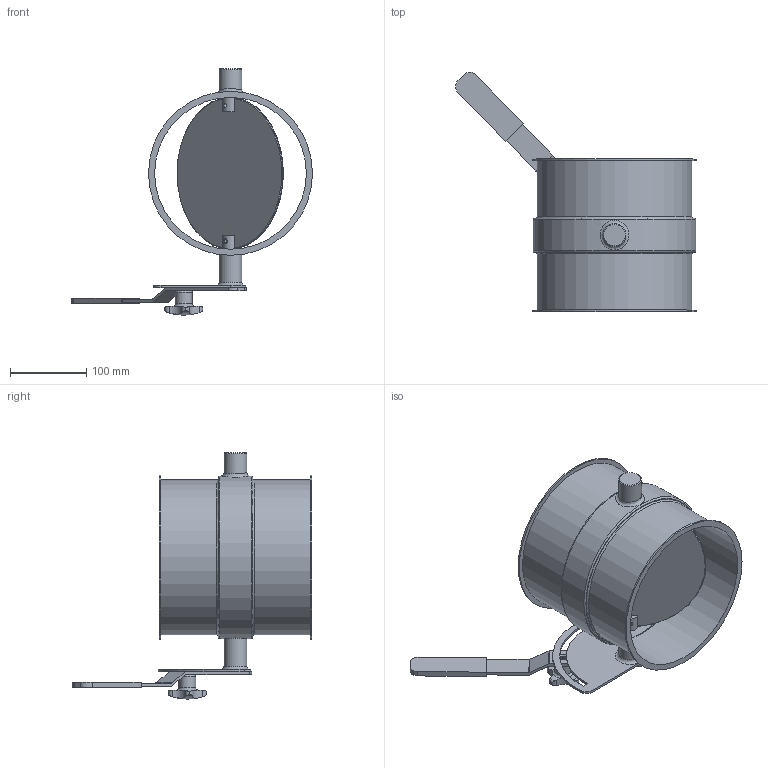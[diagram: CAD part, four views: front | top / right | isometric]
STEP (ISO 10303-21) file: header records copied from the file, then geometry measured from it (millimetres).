
FILE_DESCRIPTION((''),'2;1');
FILE_NAME('U:\Wolfgang\Marcel-3D\fertig\Kapitel 8\2021076.stp','2012-01-13T11:09:18',('iwienholt'),(''),'Autodesk Inventor 2010','Autodesk Inventor 2010','');
FILE_SCHEMA(('AUTOMOTIVE_DESIGN { 1 0 10303 214 1 1 1 1 }'));
Length unit declared in the file: millimetre
Products named in the file (7): 2021076; 2021076-1; Bolzen D20; ganter_din_6335-ku-50-m10-k; Umstellsegment D20; Scheibe200b; Griff D20b
Assembly tree (6 placements, depth 2):
  2021076
    2021076-1
    Bolzen D20
    ganter_din_6335-ku-50-m10-k
    Umstellsegment D20
    Scheibe200b
    Griff D20b
Bounding box: 315.96 x 314.05 x 323 mm (x, y, z)
Volume: 642972.9 mm3; surface area: 461441.6 mm2
Topology: 6 solids, 6 shells, 137 faces, 334 edges, 222 vertices
Faces by surface type: cylinder 54, plane 53, torus 13, bspline 11, cone 5, sphere 1
Full cylindrical faces by diameter (mm): 6 x4, 8 x1, 9 x1, 10 x2, 16 x1, 20 x8, 22 x1, 30 x3, 199 x3, 200 x1, 203 x2, 208 x1, 209 x1, 213 x1, 215 x2
Entity records: 5238 total; most frequent: CARTESIAN_POINT 2062, DIRECTION 626, ORIENTED_EDGE 532, AXIS2_PLACEMENT_3D 270, EDGE_CURVE 266, EDGE_LOOP 228, VERTEX_POINT 206, FACE_OUTER_BOUND 137
